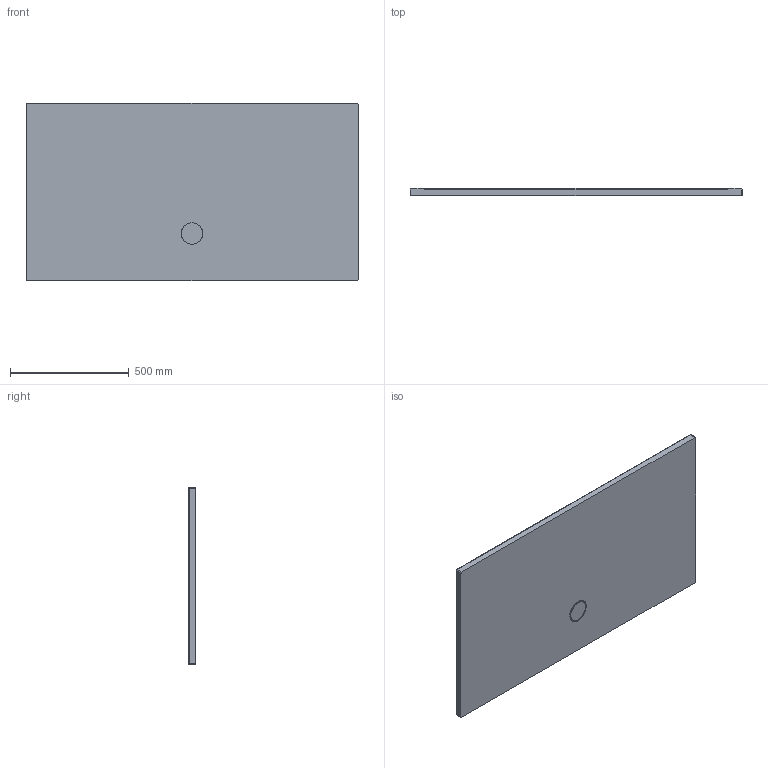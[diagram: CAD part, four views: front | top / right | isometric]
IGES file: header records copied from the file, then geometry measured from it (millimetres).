
Start section: SolidWorks IGES file using analytic representation for surfaces
Global section: file name: Y:\TKT\_PLIKI DLA ARCHITEKTÓW\02_AKRYL\BRODZIKI\seria SPACE MINERAL\IGS\B_M_75x140x1,5.IGS; native system: SolidWorks 2011; preprocessor: SolidWorks 2011; author: M.Szymanski; date: 180215.140202; units: millimetre
Bounding box: 1400 x 30 x 750 mm (x, y, z)
Surface area: 2241597.4 mm2 (no closed solid volume)
Topology: 0 solids, 0 shells, 61 faces, 737 edges, 734 vertices
Faces by surface type: bspline 39, revolution 22
